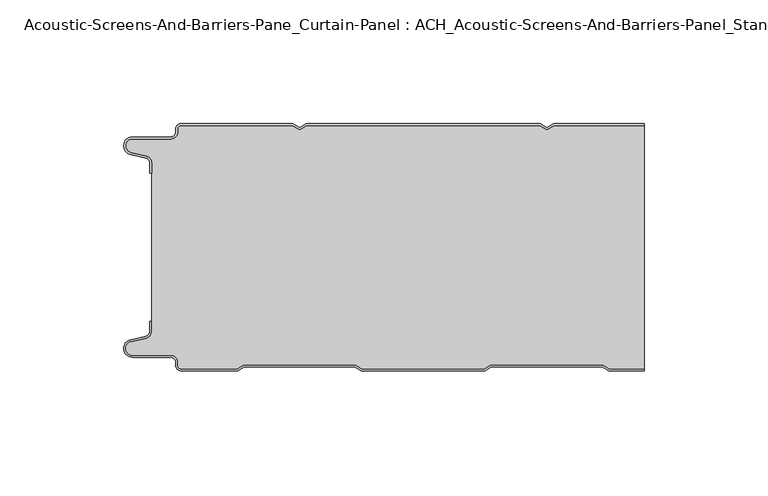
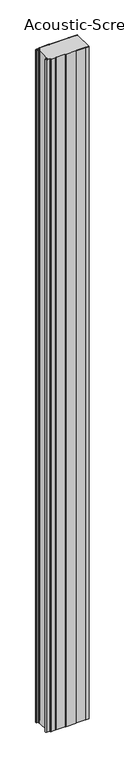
"""IFC4 building model written with IfcOpenShell, lengths in millimetres: plate geometry, Acoustic-Screens-And-Barriers-Pane_Curtain-Panel : ACH_Acoustic-Screens-And-Barriers-Panel_Standard_100mm."""

from ifc_helpers import new_model, si_unit, point, frame_2d, origin, origin_with_axes, place, context, project, spatial, polyline, circle_curve, trimmed, segment, composite_curve, outline, extrude, source, transform, mapped, element, save


def acoustic_screens_and_barriers_pane_curtain_panel_ach_0afa90e4(model_context):
    return source(origin(), model_context, "Body", "SweptSolid", [
        extrude(outline(composite_curve([segment(trimmed(circle_curve(frame_2d((-102.0, -15.878557)), 2.0), [point((-100.0, -15.878557))], [point((-101.5500978, -13.9298169))], True, "CARTESIAN"), True, "CONTINUOUS"), segment(polyline([(-101.5500978, -13.9298169), (-107.7098239, -12.507732)]), True, "CONTINUOUS"), segment(trimmed(circle_curve(frame_2d((-106.9, -9.0)), 3.6), [point((-107.7098239, -12.507732))], [point((-106.9, -5.4))], False, "CARTESIAN"), True, "CONTINUOUS"), segment(polyline([(-106.9, -5.4), (-91.4, -5.4)]), True, "CONTINUOUS"), segment(trimmed(circle_curve(frame_2d((-91.4, -3.4)), 2.0), [point((-91.4, -5.4))], [point((-89.4, -3.4))], True, "CARTESIAN"), True, "CONTINUOUS"), segment(polyline([(-89.4, -3.4), (-89.4, -2.0)]), True, "CONTINUOUS"), segment(trimmed(circle_curve(frame_2d((-87.4, -2.0)), 2.0), [point((-89.4, -2.0))], [point((-87.4, 0.0))], False, "CARTESIAN"), True, "CONTINUOUS"), segment(polyline([(-87.4, 0.0), (-42.0999995, 0.0), (-39.4, -1.5588455), (-36.7000005, 0.0), (57.9000005, 0.0), (60.6, -1.5588455), (63.2999995, 0.0), (100.0, 0.0), (100.0, -0.8), (63.5143588, -0.8), (60.6, -2.482606), (57.6856412, -0.8), (-36.4856412, -0.8), (-39.4, -2.482606), (-42.3143588, -0.8), (-87.4, -0.8)]), True, "CONTINUOUS"), segment(trimmed(circle_curve(frame_2d((-87.4, -2.0)), 1.2), [point((-87.4, -0.8))], [point((-88.6, -2.0))], True, "CARTESIAN"), True, "CONTINUOUS"), segment(polyline([(-88.6, -2.0), (-88.6, -3.4)]), True, "CONTINUOUS"), segment(trimmed(circle_curve(frame_2d((-91.4, -3.4)), 2.8), [point((-88.6, -3.4))], [point((-91.4, -6.2))], False, "CARTESIAN"), True, "CONTINUOUS"), segment(polyline([(-91.4, -6.2), (-106.9, -6.2)]), True, "CONTINUOUS"), segment(trimmed(circle_curve(frame_2d((-106.9, -9.0)), 2.8), [point((-106.9, -6.2))], [point((-107.529863, -11.7282362))], True, "CARTESIAN"), True, "CONTINUOUS"), segment(polyline([(-107.529863, -11.7282362), (-101.370137, -13.150321)]), True, "CONTINUOUS"), segment(trimmed(circle_curve(frame_2d((-102.0, -15.878557)), 2.8), [point((-101.370137, -13.150321))], [point((-99.2, -15.878557))], False, "CARTESIAN"), True, "CONTINUOUS"), segment(polyline([(-99.2, -15.878557), (-99.2, -20.0), (-100.0, -20.0), (-100.0, -15.878557)]), True, "CONTINUOUS")], self_intersect=False)), origin_with_axes(), (0.0, 0.0, 1.0), 3500.0),
        extrude(outline(composite_curve([segment(polyline([(-99.2, -84.121443), (-99.2, -15.8785573)]), True, "CONTINUOUS"), segment(trimmed(circle_curve(frame_2d((-102.0, -15.8785573)), 2.8), [point((-99.2, -15.8785573))], [point((-101.370137, -13.1503212))], True, "CARTESIAN"), True, "CONTINUOUS"), segment(polyline([(-101.370137, -13.1503212), (-107.5298631, -11.7282362)]), True, "CONTINUOUS"), segment(trimmed(circle_curve(frame_2d((-106.9, -9.0)), 2.8), [point((-107.5298631, -11.7282362))], [point((-106.9, -6.2))], False, "CARTESIAN"), True, "CONTINUOUS"), segment(polyline([(-106.9, -6.2), (-91.4000001, -6.2)]), True, "CONTINUOUS"), segment(trimmed(circle_curve(frame_2d((-91.4000001, -3.4)), 2.8), [point((-91.4000001, -6.2))], [point((-88.6000001, -3.4))], True, "CARTESIAN"), True, "CONTINUOUS"), segment(polyline([(-88.6000001, -3.4), (-88.6000001, -2.0)]), True, "CONTINUOUS"), segment(trimmed(circle_curve(frame_2d((-87.4000001, -2.0)), 1.2), [point((-88.6000001, -2.0))], [point((-87.4000001, -0.8))], False, "CARTESIAN"), True, "CONTINUOUS"), segment(polyline([(-87.4000001, -0.8), (-42.3143589, -0.8), (-39.4000001, -2.482606), (-36.4856412, -0.8), (57.6856411, -0.8), (60.5999999, -2.482606), (63.5143588, -0.8), (100.0, -0.8), (100.0, -99.2), (85.8105122, -99.2), (83.2124346, -97.7), (37.9837184, -97.7), (35.3856408, -99.2), (-14.1894878, -99.2), (-16.7875654, -97.7), (-62.0162816, -97.7), (-64.6143592, -99.2), (-87.4, -99.2)]), True, "CONTINUOUS"), segment(trimmed(circle_curve(frame_2d((-87.4, -98.0)), 1.2), [point((-87.4, -99.2))], [point((-88.6, -98.0))], False, "CARTESIAN"), True, "CONTINUOUS"), segment(polyline([(-88.6, -98.0), (-88.6, -96.5999998)]), True, "CONTINUOUS"), segment(trimmed(circle_curve(frame_2d((-91.4, -96.5999998)), 2.8), [point((-88.6, -96.5999998))], [point((-91.4, -93.7999998))], True, "CARTESIAN"), True, "CONTINUOUS"), segment(polyline([(-91.4, -93.7999998), (-106.9, -93.7999998)]), True, "CONTINUOUS"), segment(trimmed(circle_curve(frame_2d((-106.9, -91.0)), 2.7999998), [point((-106.9, -93.7999998))], [point((-107.529863, -88.271764))], False, "CARTESIAN"), True, "CONTINUOUS"), segment(polyline([(-107.529863, -88.271764), (-101.370137, -86.8496792)]), True, "CONTINUOUS"), segment(trimmed(circle_curve(frame_2d((-102.0, -84.121443)), 2.8), [point((-101.370137, -86.8496792))], [point((-99.2, -84.121443))], True, "CARTESIAN"), True, "CONTINUOUS")], self_intersect=False)), origin_with_axes(), (0.0, 0.0, 1.0), 3500.0),
        extrude(outline(composite_curve([segment(trimmed(circle_curve(frame_2d((-87.4, -98.0)), 2.0), [point((-87.4, -100.0))], [point((-89.4, -98.0))], False, "CARTESIAN"), True, "CONTINUOUS"), segment(polyline([(-89.4, -98.0), (-89.4, -96.6)]), True, "CONTINUOUS"), segment(trimmed(circle_curve(frame_2d((-91.4, -96.6)), 2.0), [point((-89.4, -96.6))], [point((-91.4, -94.6))], True, "CARTESIAN"), True, "CONTINUOUS"), segment(polyline([(-91.4, -94.6), (-106.9, -94.6)]), True, "CONTINUOUS"), segment(trimmed(circle_curve(frame_2d((-106.9, -91.0)), 3.6), [point((-106.9, -94.6))], [point((-107.7098239, -87.4922678))], False, "CARTESIAN"), True, "CONTINUOUS"), segment(polyline([(-107.7098239, -87.4922678), (-101.5500979, -86.070183)]), True, "CONTINUOUS"), segment(trimmed(circle_curve(frame_2d((-102.0, -84.121443)), 2.0), [point((-101.5500979, -86.070183))], [point((-100.0, -84.121443))], True, "CARTESIAN"), True, "CONTINUOUS"), segment(polyline([(-100.0, -84.121443), (-100.0, -80.0), (-99.2, -80.0), (-99.2, -84.121443)]), True, "CONTINUOUS"), segment(trimmed(circle_curve(frame_2d((-102.0, -84.121443)), 2.8), [point((-99.2, -84.121443))], [point((-101.370137, -86.8496792))], False, "CARTESIAN"), True, "CONTINUOUS"), segment(polyline([(-101.370137, -86.8496792), (-107.529863, -88.271764)]), True, "CONTINUOUS"), segment(trimmed(circle_curve(frame_2d((-106.9, -91.0)), 2.8), [point((-107.529863, -88.271764))], [point((-106.9, -93.8))], True, "CARTESIAN"), True, "CONTINUOUS"), segment(polyline([(-106.9, -93.8), (-91.4, -93.8)]), True, "CONTINUOUS"), segment(trimmed(circle_curve(frame_2d((-91.4, -96.6)), 2.8), [point((-91.4, -93.8))], [point((-88.6, -96.6))], False, "CARTESIAN"), True, "CONTINUOUS"), segment(polyline([(-88.6, -96.6), (-88.6, -98.0)]), True, "CONTINUOUS"), segment(trimmed(circle_curve(frame_2d((-87.4, -98.0)), 1.2), [point((-88.6, -98.0))], [point((-87.4, -99.2))], True, "CARTESIAN"), True, "CONTINUOUS"), segment(polyline([(-87.4, -99.2), (-64.6143592, -99.2), (-62.0162816, -97.7), (-16.7875654, -97.7), (-14.1894878, -99.2), (35.3856408, -99.2), (37.9837184, -97.7), (83.2124346, -97.7), (85.8105122, -99.2), (100.0, -99.2), (100.0, -100.0), (85.5961529, -100.0), (82.9980753, -98.5), (38.1980777, -98.5), (35.6000001, -100.0), (-14.4038471, -100.0), (-17.0019247, -98.5), (-61.8019223, -98.5), (-64.3999999, -100.0), (-87.4, -100.0)]), True, "CONTINUOUS")], self_intersect=False)), origin_with_axes(), (0.0, 0.0, 1.0), 3500.0),
    ])


if __name__ == "__main__":
    model = new_model("IFC4")
    model_context = context("Model", 3, world=origin())
    ifc_project = project(units=[si_unit("LENGTHUNIT", "METRE", prefix="MILLI")], contexts=[model_context])
    site = spatial("IfcSite", under=ifc_project)
    building = spatial("IfcBuilding", under=site)
    placement = place(None, origin())
    acoustic_screens_and_barriers_pane_curtain_panel_ach_shape = acoustic_screens_and_barriers_pane_curtain_panel_ach_0afa90e4(model_context)
    element("IfcPlate", 1, ObjectType="Acoustic-Screens-And-Barriers-Pane_Curtain-Panel : ACH_Acoustic-Screens-And-Barriers-Panel_Standard_100mm", at=placement, inside=building, context=model_context, shape_type="MappedRepresentation", body=[
        mapped(acoustic_screens_and_barriers_pane_curtain_panel_ach_shape, transform((0.0, 0.0, 0.0), x_axis=(1.0, 0.0, 0.0), y_axis=(0.0, 1.0, 0.0), z_axis=(0.0, 0.0, 1.0))),
    ])
    save(model, "model.ifc")
